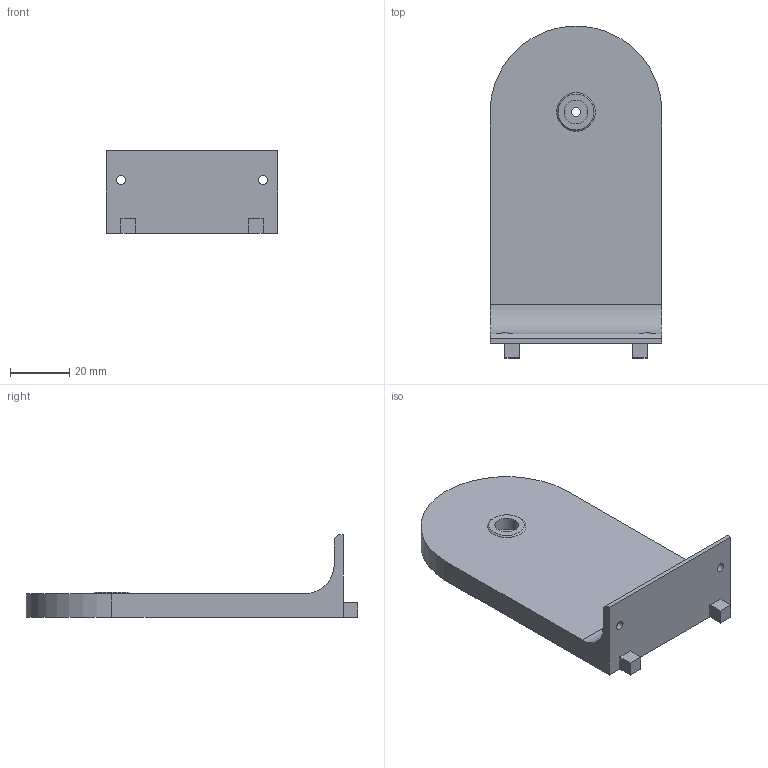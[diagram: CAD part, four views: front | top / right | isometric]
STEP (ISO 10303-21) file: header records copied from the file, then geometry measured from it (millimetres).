
FILE_DESCRIPTION(/* description */ (''),/* implementation_level */ '2;1');
FILE_NAME(/* name */ 'D:\Documents\Projects\Pan Tilt Mount\CAD STEP files\Idle Side Support.stp',/* time_stamp */ '2020-06-08T18:39:42+01:00',/* author */ ('isaac879'),/* organization */ (''),/* preprocessor_version */ 'ST-DEVELOPER v18',/* originating_system */ 'Autodesk Inventor 2020',/* authorisation */ '');
FILE_SCHEMA (('AUTOMOTIVE_DESIGN { 1 0 10303 214 3 1 1 }'));
Length unit declared in the file: millimetre
Products named in the file (1): Idle Side Support
Bounding box: 58 x 112 x 28 mm (x, y, z)
Volume: 51431 mm3; surface area: 16688.8 mm2
Topology: 1 solids, 1 shells, 27 faces, 72 edges, 49 vertices
Faces by surface type: plane 18, cylinder 8, cone 1
Full cylindrical faces by diameter (mm): 3 x3, 8 x1
Entity records: 934 total; most frequent: CARTESIAN_POINT 185, DIRECTION 145, ORIENTED_EDGE 144, EDGE_CURVE 72, LINE 51, VECTOR 51, VERTEX_POINT 49, AXIS2_PLACEMENT_3D 47
